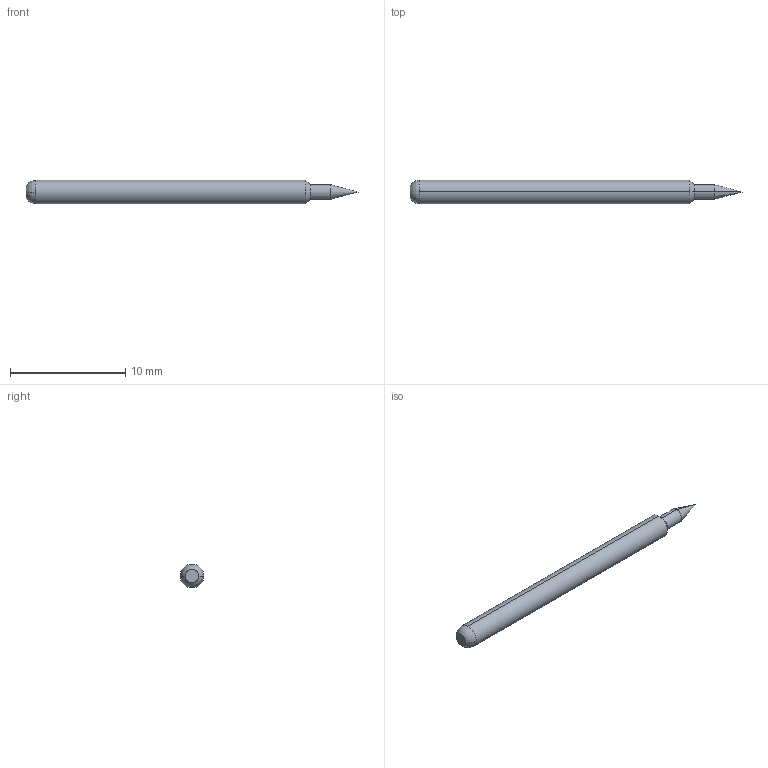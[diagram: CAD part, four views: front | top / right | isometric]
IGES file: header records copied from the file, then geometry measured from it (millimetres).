
Start section: SolidWorks IGES file using analytic representation for surfaces
Global section: file name: C:\Documents and Settings\mrumschlag\Desktop\changes\new\test\EPA-3B RECD.IGS; native system: SolidWorks 2008; preprocessor: SolidWorks 2008; author: mrumschlag; date: 110414.162811; units: inch
Bounding box: 28.78 x 2.03 x 2.03 mm (x, y, z)
Surface area: 170.6 mm2 (no closed solid volume)
Topology: 0 solids, 0 shells, 11 faces, 60 edges, 58 vertices
Faces by surface type: revolution 10, bspline 1
